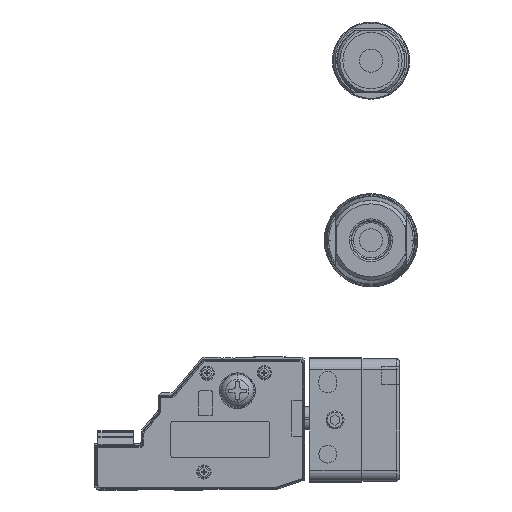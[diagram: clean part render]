
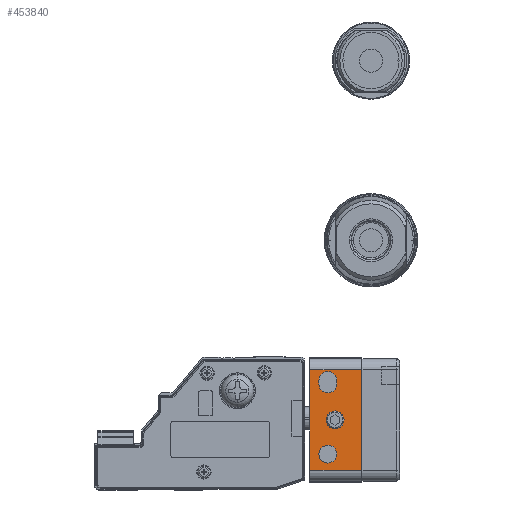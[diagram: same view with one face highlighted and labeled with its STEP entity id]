
A CAD part, left-side view. The second image highlights one B-rep face of the part: STEP entity #453840.
In plain terms, the highlighted planar face has unit normal (-1, 0, 0) as drawn and (0, 0, -1) by its records, which use the part's own axes.
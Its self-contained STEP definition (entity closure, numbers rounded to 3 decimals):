
#452790=CARTESIAN_POINT('',(-201.714,217.373,
0.));
#452800=DIRECTION('',(-0.,-0.,-1.));
#452810=DIRECTION('',(0.,-1.,0.));
#452820=AXIS2_PLACEMENT_3D('',#452790,#452800,#452810);
#452830=PLANE('',#452820);
#452840=CARTESIAN_POINT('',(-191.714,212.373,
0.));
#452850=DIRECTION('',(0.,0.,-1.));
#452860=DIRECTION('',(-1.,0.,0.));
#452870=AXIS2_PLACEMENT_3D('',#452840,#452850,#452860);
#452880=CIRCLE('',#452870,2.5);
#452890=CARTESIAN_POINT('',(-191.714,209.873,
0.));
#452900=VERTEX_POINT('',#452890);
#452910=CARTESIAN_POINT('',(-191.714,214.873,
0.));
#452920=VERTEX_POINT('',#452910);
#452930=EDGE_CURVE('',#452900,#452920,#452880,.T.);
#452940=ORIENTED_EDGE('',*,*,#452930,.F.);
#452950=CARTESIAN_POINT('',(0.,214.873,0.));
#452960=DIRECTION('',(-1.,0.,0.));
#452970=VECTOR('',#452960,1.);
#452980=LINE('',#452950,#452970);
#452990=CARTESIAN_POINT('',(-190.714,214.873,
0.));
#453000=VERTEX_POINT('',#452990);
#453010=EDGE_CURVE('',#453000,#452920,#452980,.T.);
#453020=ORIENTED_EDGE('',*,*,#453010,.T.);
#453030=CARTESIAN_POINT('',(-190.714,212.373,
0.));
#453040=DIRECTION('',(0.,0.,-1.));
#453050=DIRECTION('',(-1.,0.,0.));
#453060=AXIS2_PLACEMENT_3D('',#453030,#453040,#453050);
#453070=CIRCLE('',#453060,2.5);
#453080=CARTESIAN_POINT('',(-190.714,209.873,
0.));
#453090=VERTEX_POINT('',#453080);
#453100=EDGE_CURVE('',#453000,#453090,#453070,.T.);
#453110=ORIENTED_EDGE('',*,*,#453100,.F.);
#453120=CARTESIAN_POINT('',(0.,209.873,0.));
#453130=DIRECTION('',(1.,0.,0.));
#453140=VECTOR('',#453130,1.);
#453150=LINE('',#453120,#453140);
#453160=EDGE_CURVE('',#452900,#453090,#453150,.T.);
#453170=ORIENTED_EDGE('',*,*,#453160,.T.);
#453180=EDGE_LOOP('',(#453170,#453110,#453020,#452940));
#453190=FACE_BOUND('',#453180,.T.);
#453200=CARTESIAN_POINT('',(-171.214,212.373,
0.));
#453210=DIRECTION('',(0.,0.,-1.));
#453220=DIRECTION('',(-1.,0.,0.));
#453230=AXIS2_PLACEMENT_3D('',#453200,#453210,#453220);
#453240=CIRCLE('',#453230,2.5);
#453250=CARTESIAN_POINT('',(-173.714,212.373,
0.));
#453260=VERTEX_POINT('',#453250);
#453270=CARTESIAN_POINT('',(-168.714,212.373,
0.));
#453280=VERTEX_POINT('',#453270);
#453290=EDGE_CURVE('',#453260,#453280,#453240,.T.);
#453300=ORIENTED_EDGE('',*,*,#453290,.F.);
#453310=EDGE_CURVE('',#453280,#453260,#453240,.T.);
#453320=ORIENTED_EDGE('',*,*,#453310,.F.);
#453330=EDGE_LOOP('',(#453320,#453300));
#453340=FACE_BOUND('',#453330,.T.);
#453350=CARTESIAN_POINT('',(-180.714,210.373,
0.));
#453360=DIRECTION('',(0.,0.,-1.));
#453370=DIRECTION('',(-1.,0.,0.));
#453380=AXIS2_PLACEMENT_3D('',#453350,#453360,#453370);
#453390=CIRCLE('',#453380,2.5);
#453400=CARTESIAN_POINT('',(-183.214,210.373,
0.));
#453410=VERTEX_POINT('',#453400);
#453420=CARTESIAN_POINT('',(-178.214,210.373,
0.));
#453430=VERTEX_POINT('',#453420);
#453440=EDGE_CURVE('',#453410,#453430,#453390,.T.);
#453450=ORIENTED_EDGE('',*,*,#453440,.F.);
#453460=EDGE_CURVE('',#453430,#453410,#453390,.T.);
#453470=ORIENTED_EDGE('',*,*,#453460,.F.);
#453480=EDGE_LOOP('',(#453470,#453450));
#453490=FACE_BOUND('',#453480,.T.);
#453500=CARTESIAN_POINT('',(-166.714,-2.,0.));
#453510=DIRECTION('',(0.,1.,0.));
#453520=VECTOR('',#453510,1.);
#453530=LINE('',#453500,#453520);
#453540=CARTESIAN_POINT('',(-166.714,203.073,
0.));
#453550=VERTEX_POINT('',#453540);
#453560=CARTESIAN_POINT('',(-166.714,217.373,
0.));
#453570=VERTEX_POINT('',#453560);
#453580=EDGE_CURVE('',#453550,#453570,#453530,.T.);
#453590=ORIENTED_EDGE('',*,*,#453580,.F.);
#453600=CARTESIAN_POINT('',(0.,217.373,0.));
#453610=DIRECTION('',(-1.,0.,0.));
#453620=VECTOR('',#453610,1.);
#453630=LINE('',#453600,#453620);
#453640=CARTESIAN_POINT('',(-194.714,217.373,
0.));
#453650=VERTEX_POINT('',#453640);
#453660=EDGE_CURVE('',#453570,#453650,#453630,.T.);
#453670=ORIENTED_EDGE('',*,*,#453660,.F.);
#453680=CARTESIAN_POINT('',(-194.714,-2.,0.));
#453690=DIRECTION('',(0.,-1.,0.));
#453700=VECTOR('',#453690,1.);
#453710=LINE('',#453680,#453700);
#453720=CARTESIAN_POINT('',(-194.714,203.073,
0.));
#453730=VERTEX_POINT('',#453720);
#453740=EDGE_CURVE('',#453650,#453730,#453710,.T.);
#453750=ORIENTED_EDGE('',*,*,#453740,.F.);
#453760=CARTESIAN_POINT('',(0.,203.073,0.));
#453770=DIRECTION('',(-1.,0.,0.));
#453780=VECTOR('',#453770,1.);
#453790=LINE('',#453760,#453780);
#453800=EDGE_CURVE('',#453550,#453730,#453790,.T.);
#453810=ORIENTED_EDGE('',*,*,#453800,.T.);
#453820=EDGE_LOOP('',(#453810,#453750,#453670,#453590));
#453830=FACE_OUTER_BOUND('',#453820,.T.);
#453840=ADVANCED_FACE('',(#453190,#453340,#453490,#453830),#452830,.T.);
